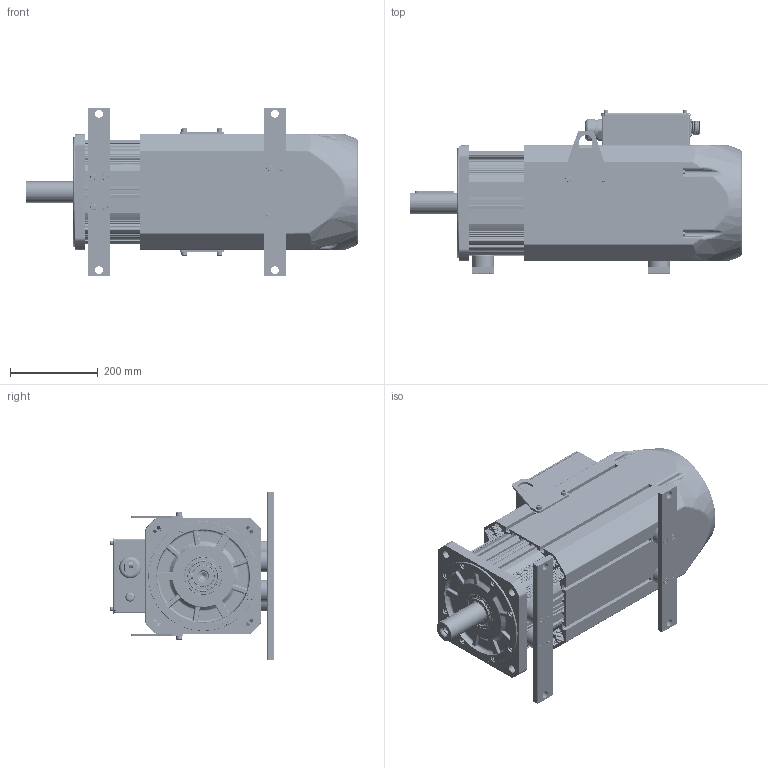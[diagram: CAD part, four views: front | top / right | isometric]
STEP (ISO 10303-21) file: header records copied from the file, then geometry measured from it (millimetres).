
FILE_DESCRIPTION((''),'2;1');
FILE_NAME('IMS20B-26M74D20C-4-R7F-A_ASM','2025-08-25T10:03:20',('0108698'),(''),'CREO PARAMETRIC BY PTC INC, 2019080','CREO PARAMETRIC BY PTC INC, 2019080','');
FILE_SCHEMA(('CONFIG_CONTROL_DESIGN'));
Products named in the file (72): 263T360_A; 631000; 80100320_AF0; 2630002_ASM; 2630003; 2630004; M6X160001; 50058-00152_AF0; 2630001_ASM; 263559_A; 2630005_ASM; 80100323_AF0; 263000_ASM; 50057-00008; 50036-00052; 50060-00059; 2630007_ASM; 2630009; 15000; 2630008_ASM; 50034-00098; _0001; 0001; 50051-00002; PDLD_4X12; 2630011; 00; M8X3000; 800; 0003; 0004; L990001; 2630010_ASM; 0005; ISO7045-M4X6-4_8; 0006; ISO7045-M4X8-4_8; WXJXDZ_40200-01002; 0007; _0002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
Assembly tree (142 placements, depth 4):
  IMS20B-26M74D20C-4-R7F-A_ASM
    2630001_ASM
      263T360_A
      631000
      2630002_ASM
        80100320_AF0
      2630003
      2630004
      M6X160001  x6
      50058-00152_AF0
    2630005_ASM
      263559_A
    263000_ASM
      80100323_AF0
    2630007_ASM
      50057-00008
      50036-00052
      50060-00059  x4
    2630008_ASM
      2630009
      15000
    50034-00098
    12116-00061_ASM
      _0001
      0001
      50051-00002
      PDLD_4X12  x4
      2630010_ASM
        2630011
        00  x3
        M8X3000  x6
        800  x6
        800  x6
        0003  x4
        0004
        L990001
      0005
      ISO7045-M4X6-4_8  x2
      0006
      ISO7045-M4X8-4_8
      WXJXDZ_40200-01002  x4
      0007
      _0002
      50060-00134  x4
      0008
      PG11
      PG36
    50034-00031  x2
    50034-00026  x2
    50058-00151_AF0
    50060-00071  x4
    50058-00152_AF1
    50060-00135  x4
    50058-00150
    50066-00059
    50060-00076  x4
    12118-00004_ASM
      80310919
      50034-00012
      80310916  x2
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Bounding box: 755 x 371 x 384 mm (x, y, z)
Volume: 15534250.1 mm3; surface area: 3741991 mm2
Topology: 148 solids, 260 shells, 7714 faces, 20132 edges, 13031 vertices
Faces by surface type: plane 3573, cylinder 2778, cone 505, bspline 481, torus 329, revolution 24, sphere 24
Entity records: 228533 total; most frequent: CARTESIAN_POINT 70630, DIRECTION 33163, ORIENTED_EDGE 32704, EDGE_CURVE 16484, AXIS2_PLACEMENT_3D 11953, VERTEX_POINT 10717, VECTOR 9233, LINE 9233
